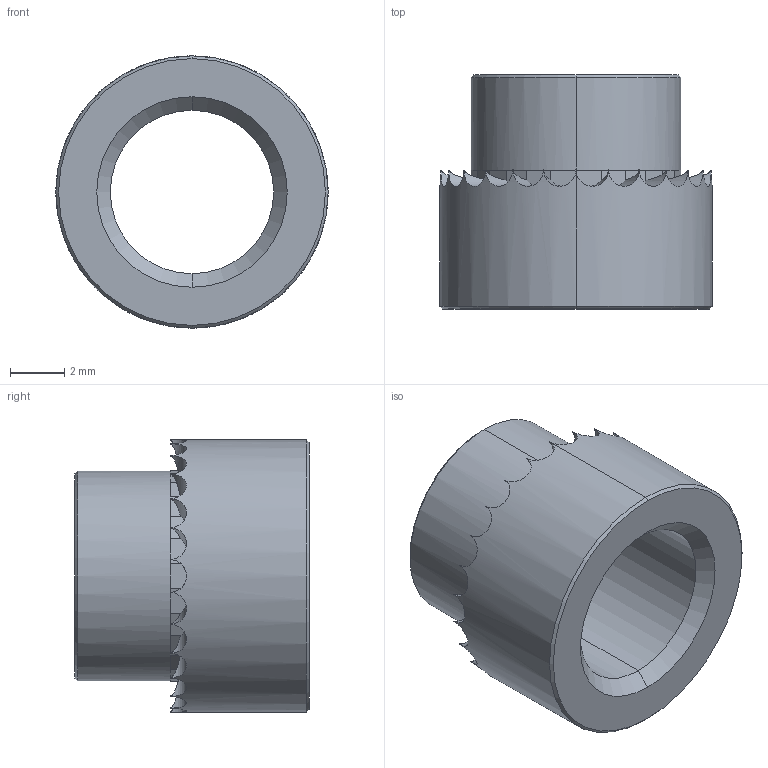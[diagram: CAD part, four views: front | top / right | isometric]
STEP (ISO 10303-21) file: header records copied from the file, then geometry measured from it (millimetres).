
FILE_DESCRIPTION (( 'STEP AP203' ), '1' );
FILE_NAME ('P0829.060-10G-ZP.step', '2019-03-21T22:19:44', ( '' ), ( '' ), 'SwSTEP 2.0', 'SolidWorks 2017', '' );
FILE_SCHEMA (( 'CONFIG_CONTROL_DESIGN' ));
Length unit declared in the file: millimetre
Products named in the file (1): P0829.060-10G-ZP
Bounding box: 10 x 8.6 x 10 mm (x, y, z)
Volume: 299.2 mm3; surface area: 500.5 mm2
Topology: 1 solids, 1 shells, 120 faces, 294 edges, 176 vertices
Faces by surface type: plane 80, cylinder 32, cone 8
Entity records: 3739 total; most frequent: CARTESIAN_POINT 903, ORIENTED_EDGE 588, DIRECTION 582, EDGE_CURVE 294, AXIS2_PLACEMENT_3D 219, VERTEX_POINT 176, LINE 144, VECTOR 144
